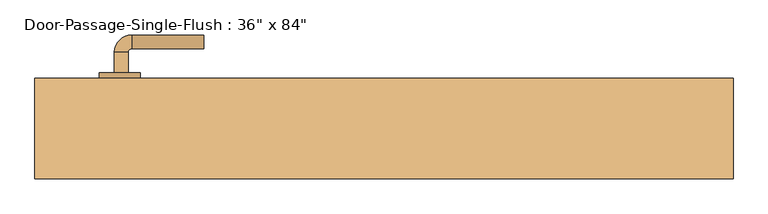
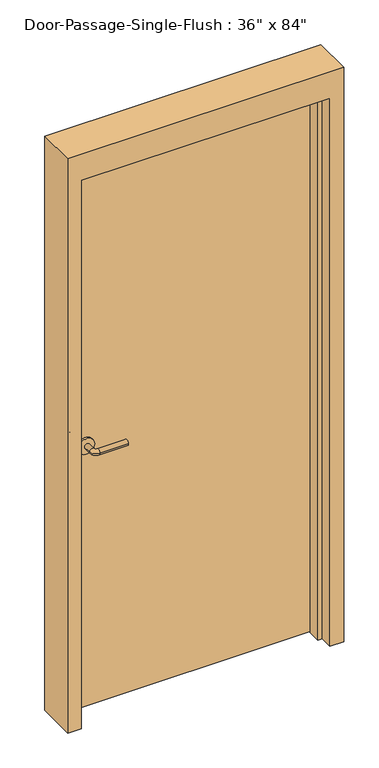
"""IFC4 building model written with IfcOpenShell, lengths in millimetres: door geometry."""

from ifc_helpers import new_model, si_unit, point, frame, frame_2d, origin, origin_with_axes, place, context, project, spatial, polyline, circle_curve, ellipse_curve, trimmed, segment, composite_curve, outline, extrude, faceted_brep, source, transform, mapped, element, save
from ifc_brep_helpers import plane_surface, cylinder_surface, revolved_surface, advanced_brep


def door_a8315dbd(model_context):
    return source(origin(), model_context, "Body", "SolidModel", [
        advanced_brep(
        [(-392.190625, 15.8125, 1016.0), (-372.190625, 15.8125, 1016.0), (-372.190625, -14.1875, 1016.0), (-392.190625, -14.1875, 1016.0), (-367.190625, -19.1875, 1016.0), (-367.190625, -39.1875, 1016.0), (-262.190625, -39.1875, 1016.0), (-262.190625, -19.1875, 1016.0)],
        [
            (0, 1, circle_curve(frame((-382.190625, 15.8125, 1016.0), z_axis=(0.0, 1.0, 0.0), x_axis=(1.0, 0.0, 0.0)), 10.0)),
            (1, 0, circle_curve(frame((-382.190625, 15.8125, 1016.0), z_axis=(0.0, 1.0, 0.0), x_axis=(1.0, 0.0, 0.0)), 10.0)),
            (1, 2),
            (2, 3, circle_curve(frame((-382.190625, -14.1875, 1016.0), z_axis=(0.0, 1.0, 0.0), x_axis=(1.0, 0.0, 0.0)), 10.0)),
            (3, 0),
            (3, 2, circle_curve(frame((-382.190625, -14.1875, 1016.0), z_axis=(0.0, 1.0, 0.0), x_axis=(1.0, 0.0, 0.0)), 10.0)),
            (4, 5, circle_curve(frame((-367.190625, -29.1875, 1016.0), z_axis=(-1.0, 0.0, 0.0), x_axis=(0.0, 1.0, 0.0)), 10.0)),
            (5, 3, circle_curve(frame((-367.190625, -14.1875, 1016.0), z_axis=(0.0, 0.0, -1.0), x_axis=(-1.0, 0.0, 0.0)), 25.0)),
            (2, 4, circle_curve(frame((-367.190625, -14.1875, 1016.0), z_axis=(0.0, 0.0, 1.0), x_axis=(-1.0, 0.0, 0.0)), 5.0)),
            (5, 4, circle_curve(frame((-367.190625, -29.1875, 1016.0), z_axis=(-1.0, 0.0, 0.0), x_axis=(0.0, 1.0, 0.0)), 10.0)),
            (6, 7, circle_curve(frame((-262.190625, -29.1875, 1016.0), z_axis=(1.0, 0.0, 0.0), x_axis=(0.0, 1.0, 0.0)), 10.0)),
            (7, 6, circle_curve(frame((-262.190625, -29.1875, 1016.0), z_axis=(1.0, 0.0, 0.0), x_axis=(0.0, 1.0, 0.0)), 10.0)),
            (4, 7),
            (6, 5),
        ],
        [
            plane_surface(frame((-382.190625, 15.8125, 1016.0), z_axis=(0.0, 1.0, 0.0), x_axis=(0.0, 0.0, 1.0))),
            cylinder_surface(frame((-382.190625, 15.8125, 1016.0), z_axis=(0.0, 1.0, 0.0), x_axis=(1.0, 0.0, 0.0)), 10.0),
            revolved_surface(trimmed(ellipse_curve(frame((-382.190625, -14.1875, 1016.0), z_axis=(0.0, -1.0, 0.0), x_axis=(1.0, 0.0, 0.0)), 10.0, 10.0), [point((-392.190625, -14.1875, 1016.0))], [point((-372.190625, -14.1875, 1016.0))], True, "CARTESIAN"), (-367.190625, -14.1875, 1016.0), (0.0, 0.0, -1.0)),
            revolved_surface(trimmed(ellipse_curve(frame((-382.190625, -14.1875, 1016.0), z_axis=(0.0, -1.0, 0.0), x_axis=(1.0, 0.0, 0.0)), 10.0, 10.0), [point((-372.190625, -14.1875, 1016.0))], [point((-392.190625, -14.1875, 1016.0))], True, "CARTESIAN"), (-367.190625, -14.1875, 1016.0), (0.0, 0.0, -1.0)),
            plane_surface(frame((-262.190625, -29.1875, 1016.0), z_axis=(1.0, 0.0, 0.0), x_axis=(0.0, 0.0, 1.0))),
            cylinder_surface(frame((-367.190625, -29.1875, 1016.0), z_axis=(-1.0, 0.0, 0.0), x_axis=(0.0, 1.0, 0.0)), 10.0),
        ],
        [
            (0, [[1, 2]]),
            (1, [[3, 4, 5, -2]]),
            (1, [[-5, 6, -3, -1]]),
            (2, [[7, 8, -4, 9]]),
            (3, [[10, -9, -6, -8]]),
            (4, [[11, 12]]),
            (5, [[13, -11, 14, -7]]),
            (5, [[-14, -12, -13, -10]]),
        ],
    ),
        extrude(outline(composite_curve([segment(trimmed(circle_curve(frame_2d((1016.0, -384.690625)), 30.0), [point((1016.0, -414.690625))], [point((1016.0, -354.690625))], False, "CARTESIAN"), True, "CONTINUOUS"), segment(trimmed(circle_curve(frame_2d((1016.0, -384.690625)), 30.0), [point((1016.0, -354.690625))], [point((1016.0, -414.690625))], False, "CARTESIAN"), True, "CONTINUOUS")], self_intersect=False)), frame((0.0, 15.8125, 0.0), z_axis=(0.0, 1.0, 0.0), x_axis=(0.0, 0.0, 1.0)), (0.0, 0.0, 1.0), 8.0),
        advanced_brep(
        [(-392.190625, 76.2625, 1016.0), (-372.190625, 76.2625, 1016.0), (-392.190625, 106.2625, 1016.0), (-372.190625, 106.2625, 1016.0), (-367.190625, 111.2625, 1016.0), (-367.190625, 131.2625, 1016.0), (-262.190625, 131.2625, 1016.0), (-262.190625, 111.2625, 1016.0)],
        [
            (0, 1, circle_curve(frame((-382.190625, 76.2625, 1016.0), z_axis=(0.0, -1.0, 0.0), x_axis=(1.0, 0.0, 0.0)), 10.0)),
            (1, 0, circle_curve(frame((-382.190625, 76.2625, 1016.0), z_axis=(0.0, -1.0, 0.0), x_axis=(1.0, 0.0, 0.0)), 10.0)),
            (0, 2),
            (2, 3, circle_curve(frame((-382.190625, 106.2625, 1016.0), z_axis=(0.0, -1.0, 0.0), x_axis=(1.0, 0.0, 0.0)), 10.0)),
            (3, 1),
            (3, 2, circle_curve(frame((-382.190625, 106.2625, 1016.0), z_axis=(0.0, -1.0, 0.0), x_axis=(1.0, 0.0, 0.0)), 10.0)),
            (4, 3, circle_curve(frame((-367.190625, 106.2625, 1016.0), z_axis=(0.0, 0.0, 1.0), x_axis=(-1.0, 0.0, 0.0)), 5.0)),
            (2, 5, circle_curve(frame((-367.190625, 106.2625, 1016.0), z_axis=(0.0, 0.0, -1.0), x_axis=(-1.0, 0.0, 0.0)), 25.0)),
            (5, 4, circle_curve(frame((-367.190625, 121.2625, 1016.0), z_axis=(-1.0, 0.0, 0.0), x_axis=(0.0, -1.0, 0.0)), 10.0)),
            (4, 5, circle_curve(frame((-367.190625, 121.2625, 1016.0), z_axis=(-1.0, 0.0, 0.0), x_axis=(0.0, -1.0, 0.0)), 10.0)),
            (6, 7, circle_curve(frame((-262.190625, 121.2625, 1016.0), z_axis=(1.0, 0.0, 0.0), x_axis=(0.0, -1.0, 0.0)), 10.0)),
            (7, 6, circle_curve(frame((-262.190625, 121.2625, 1016.0), z_axis=(1.0, 0.0, 0.0), x_axis=(0.0, -1.0, 0.0)), 10.0)),
            (5, 6),
            (7, 4),
        ],
        [
            plane_surface(frame((-382.190625, 76.2625, 1016.0), z_axis=(0.0, -1.0, 0.0), x_axis=(0.0, 0.0, 1.0))),
            cylinder_surface(frame((-382.190625, 76.2625, 1016.0), z_axis=(0.0, -1.0, 0.0), x_axis=(1.0, 0.0, 0.0)), 10.0),
            revolved_surface(trimmed(ellipse_curve(frame((-382.190625, 106.2625, 1016.0), z_axis=(0.0, -1.0, 0.0), x_axis=(1.0, 0.0, 0.0)), 10.0, 10.0), [point((-392.190625, 106.2625, 1016.0))], [point((-372.190625, 106.2625, 1016.0))], True, "CARTESIAN"), (-367.190625, 106.2625, 1016.0), (0.0, 0.0, -1.0)),
            revolved_surface(trimmed(ellipse_curve(frame((-382.190625, 106.2625, 1016.0), z_axis=(0.0, -1.0, 0.0), x_axis=(1.0, 0.0, 0.0)), 10.0, 10.0), [point((-372.190625, 106.2625, 1016.0))], [point((-392.190625, 106.2625, 1016.0))], True, "CARTESIAN"), (-367.190625, 106.2625, 1016.0), (0.0, 0.0, -1.0)),
            plane_surface(frame((-262.190625, 121.2625, 1016.0), z_axis=(1.0, 0.0, 0.0), x_axis=(0.0, 0.0, 1.0))),
            cylinder_surface(frame((-367.190625, 121.2625, 1016.0), z_axis=(-1.0, 0.0, 0.0), x_axis=(0.0, -1.0, 0.0)), 10.0),
        ],
        [
            (0, [[1, 2]]),
            (1, [[-1, 3, 4, 5]]),
            (1, [[-2, -5, 6, -3]]),
            (2, [[7, -4, 8, 9]]),
            (3, [[-8, -6, -7, 10]]),
            (4, [[11, 12]]),
            (5, [[-9, 13, -12, 14]]),
            (5, [[-10, -14, -11, -13]]),
        ],
    ),
        extrude(outline(composite_curve([segment(trimmed(circle_curve(frame_2d((1016.0, -384.690625)), 30.0), [point((1016.0, -414.690625))], [point((1016.0, -354.690625))], False, "CARTESIAN"), True, "CONTINUOUS"), segment(trimmed(circle_curve(frame_2d((1016.0, -384.690625)), 30.0), [point((1016.0, -354.690625))], [point((1016.0, -414.690625))], False, "CARTESIAN"), True, "CONTINUOUS")], self_intersect=False)), frame((0.0, 68.2625, 0.0), z_axis=(0.0, 1.0, 0.0), x_axis=(0.0, 0.0, 1.0)), (0.0, 0.0, 1.0), 8.0),
        faceted_brep([(457.2, 19.05, 0.0), (457.2, 68.2625, 0.0), (508.0, 68.2625, 0.0), (508.0, -77.7875, 0.0), (457.2, -77.7875, 0.0), (457.2, -28.575, 0.0), (441.325, -28.575, 0.0), (441.325, 19.05, 0.0), (457.2, 19.05, 2133.6), (457.2, 68.2625, 2133.6), (-457.2, 68.2625, 2133.6), (-457.2, 68.2625, 0.0), (-508.0, 68.2625, 0.0), (-508.0, 68.2625, 2235.2), (508.0, 68.2625, 2235.2), (508.0, -77.7875, 2235.2), (-508.0, -77.7875, 2235.2), (-508.0, -77.7875, 0.0), (-457.2, -77.7875, 0.0), (-457.2, -77.7875, 2133.6), (457.2, -77.7875, 2133.6), (457.2, -28.575, 2133.6), (-457.2, -28.575, 2133.6), (-457.2, -28.575, 0.0), (-441.325, -28.575, 0.0), (-441.325, -28.575, 2117.725), (441.325, -28.575, 2117.725), (441.325, 19.05, 2117.725), (-441.325, 19.05, 2117.725), (-441.325, 19.05, 0.0), (-457.2, 19.05, 0.0), (-457.2, 19.05, 2133.6)], [[[0, 1, 2, 3, 4, 5, 6, 7]], [[1, 0, 8, 9]], [[2, 1, 9, 10, 11, 12, 13, 14]], [[3, 2, 14, 15]], [[4, 3, 15, 16, 17, 18, 19, 20]], [[5, 4, 20, 21]], [[6, 5, 21, 22, 23, 24, 25, 26]], [[7, 6, 26, 27]], [[0, 7, 27, 28, 29, 30, 31, 8]], [[9, 8, 31, 10]], [[20, 19, 22, 21]], [[26, 25, 28, 27]], [[12, 11, 30, 29, 24, 23, 18, 17]], [[11, 10, 31, 30]], [[13, 12, 17, 16]], [[19, 18, 23, 22]], [[25, 24, 29, 28]], [[15, 14, 13, 16]]]),
        extrude(outline(polyline([(457.2, 23.8125), (-457.2, 23.8125), (-457.2, 68.2625), (457.2, 68.2625), (457.2, 23.8125)])), origin_with_axes(), (0.0, 0.0, 1.0), 2133.6),
    ])


if __name__ == "__main__":
    model = new_model("IFC4")
    model_context = context("Model", 3, world=origin())
    ifc_project = project(units=[si_unit("LENGTHUNIT", "METRE", prefix="MILLI")], contexts=[model_context])
    site = spatial("IfcSite", under=ifc_project)
    building = spatial("IfcBuilding", under=site)
    placement = place(None, origin())
    door_shape = door_a8315dbd(model_context)
    element("IfcDoor", 1, ObjectType="Door-Passage-Single-Flush : 36\" x 84\"", at=placement, inside=building, context=model_context, shape_type="MappedRepresentation", body=[
        mapped(door_shape, transform((0.0, 0.0, 0.0), x_axis=(1.0, 0.0, 0.0), y_axis=(0.0, 1.0, 0.0), z_axis=(0.0, 0.0, 1.0))),
    ])
    save(model, "model.ifc")
